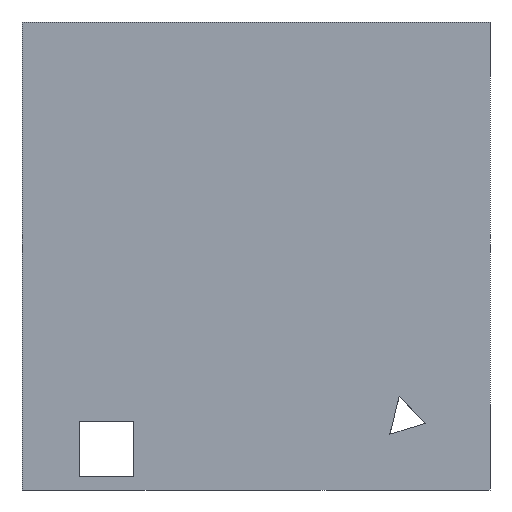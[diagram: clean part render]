
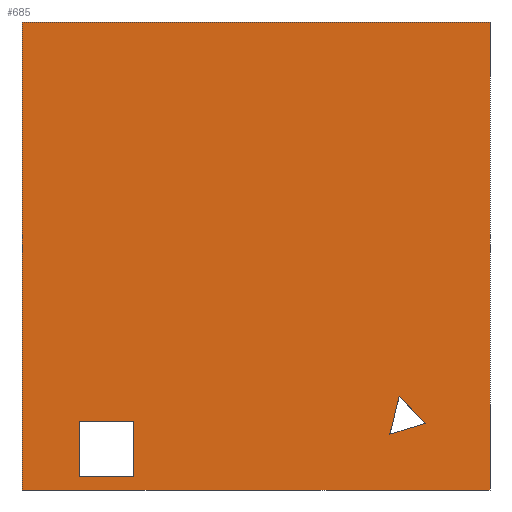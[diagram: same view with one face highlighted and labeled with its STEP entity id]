
A CAD part, front view. The second image highlights one B-rep face of the part: STEP entity #685.
In plain terms, the highlighted planar face has unit normal (0, -1, 0).
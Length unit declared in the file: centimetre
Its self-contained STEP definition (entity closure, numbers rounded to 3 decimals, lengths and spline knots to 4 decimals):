
#15 = EDGE_CURVE ( 'NONE', #908, #1319, #1293, .T. ) ;
#32 = VECTOR ( 'NONE', #79, 100. ) ;
#35 = EDGE_CURVE ( 'NONE', #1319, #750, #1261, .T. ) ;
#43 = DIRECTION ( 'NONE',  ( 0., 0., -1. ) ) ;
#67 = VERTEX_POINT ( 'NONE', #1883 ) ;
#70 = CARTESIAN_POINT ( 'NONE',  ( 805.7783, 0., 199.2642 ) ) ;
#71 = VECTOR ( 'NONE', #113, 100. ) ;
#79 = DIRECTION ( 'NONE',  ( 1., 0., 0. ) ) ;
#94 = CARTESIAN_POINT ( 'NONE',  ( 1000., 0., 1000. ) ) ;
#113 = DIRECTION ( 'NONE',  ( -1., 0., 0. ) ) ;
#198 = CARTESIAN_POINT ( 'NONE',  ( 862.5101, 0., 142.5323 ) ) ;
#213 = EDGE_CURVE ( 'NONE', #1066, #878, #433, .T. ) ;
#234 = PLANE ( 'NONE',  #1748 ) ;
#258 = CARTESIAN_POINT ( 'NONE',  ( 785.726, 0., 119.1059 ) ) ;
#281 = CARTESIAN_POINT ( 'NONE',  ( 123.393, 0., 27.9124 ) ) ;
#286 = VERTEX_POINT ( 'NONE', #198 ) ;
#314 = CARTESIAN_POINT ( 'NONE',  ( 785.726, 0., 119.1059 ) ) ;
#346 = EDGE_LOOP ( 'NONE', ( #1474, #920, #1084, #782 ) ) ;
#352 = LINE ( 'NONE', #966, #788 ) ;
#353 = VECTOR ( 'NONE', #575, 100. ) ;
#361 = FACE_BOUND ( 'NONE', #784, .T. ) ;
#365 = LINE ( 'NONE', #258, #1138 ) ;
#367 = DIRECTION ( 'NONE',  ( 0., 0., 1. ) ) ;
#373 = DIRECTION ( 'NONE',  ( 1., 0., 0. ) ) ;
#381 = CARTESIAN_POINT ( 'NONE',  ( 1000., 0., 1000. ) ) ;
#433 = LINE ( 'NONE', #1317, #1253 ) ;
#435 = EDGE_LOOP ( 'NONE', ( #548, #1420, #1218 ) ) ;
#436 = CARTESIAN_POINT ( 'NONE',  ( 0., 0., 1000. ) ) ;
#481 = CARTESIAN_POINT ( 'NONE',  ( 239.0837, 0., 146.9607 ) ) ;
#493 = ORIENTED_EDGE ( 'NONE', *, *, #1765, .F. ) ;
#535 = FACE_OUTER_BOUND ( 'NONE', #346, .T. ) ;
#548 = ORIENTED_EDGE ( 'NONE', *, *, #1355, .T. ) ;
#552 = CARTESIAN_POINT ( 'NONE',  ( 1000., 0., 0. ) ) ;
#555 = CARTESIAN_POINT ( 'NONE',  ( 123.393, 0., 27.9124 ) ) ;
#575 = DIRECTION ( 'NONE',  ( 1., 0., 0. ) ) ;
#680 = DIRECTION ( 'NONE',  ( -0.956, 0., -0.292 ) ) ;
#685 = ADVANCED_FACE ( 'NONE', ( #361, #1272, #535 ), #234, .F. ) ;
#709 = ORIENTED_EDGE ( 'NONE', *, *, #1857, .F. ) ;
#750 = VERTEX_POINT ( 'NONE', #552 ) ;
#782 = ORIENTED_EDGE ( 'NONE', *, *, #1906, .T. ) ;
#784 = EDGE_LOOP ( 'NONE', ( #709, #1797, #1829, #493 ) ) ;
#788 = VECTOR ( 'NONE', #373, 100. ) ;
#800 = EDGE_CURVE ( 'NONE', #1863, #1066, #835, .T. ) ;
#820 = VECTOR ( 'NONE', #948, 100. ) ;
#835 = LINE ( 'NONE', #1860, #71 ) ;
#837 = LINE ( 'NONE', #1694, #1904 ) ;
#878 = VERTEX_POINT ( 'NONE', #555 ) ;
#897 = CARTESIAN_POINT ( 'NONE',  ( 123.393, 0., 146.9607 ) ) ;
#908 = VERTEX_POINT ( 'NONE', #436 ) ;
#912 = VECTOR ( 'NONE', #43, 100. ) ;
#920 = ORIENTED_EDGE ( 'NONE', *, *, #35, .F. ) ;
#948 = DIRECTION ( 'NONE',  ( 0.243, 0., 0.97 ) ) ;
#955 = CARTESIAN_POINT ( 'NONE',  ( 0., 0., 1000. ) ) ;
#966 = CARTESIAN_POINT ( 'NONE',  ( 0., 0., 0. ) ) ;
#1066 = VERTEX_POINT ( 'NONE', #897 ) ;
#1084 = ORIENTED_EDGE ( 'NONE', *, *, #15, .F. ) ;
#1109 = CARTESIAN_POINT ( 'NONE',  ( 0., 0., 1000. ) ) ;
#1125 = CARTESIAN_POINT ( 'NONE',  ( 0., 0., 1000. ) ) ;
#1138 = VECTOR ( 'NONE', #680, 100. ) ;
#1190 = EDGE_CURVE ( 'NONE', #1537, #67, #1406, .T. ) ;
#1206 = EDGE_CURVE ( 'NONE', #1657, #750, #352, .T. ) ;
#1209 = EDGE_CURVE ( 'NONE', #67, #286, #1689, .T. ) ;
#1218 = ORIENTED_EDGE ( 'NONE', *, *, #1209, .T. ) ;
#1253 = VECTOR ( 'NONE', #1892, 100. ) ;
#1261 = LINE ( 'NONE', #381, #1496 ) ;
#1272 = FACE_BOUND ( 'NONE', #435, .T. ) ;
#1293 = LINE ( 'NONE', #1125, #32 ) ;
#1317 = CARTESIAN_POINT ( 'NONE',  ( 123.393, 0., 27.9124 ) ) ;
#1319 = VERTEX_POINT ( 'NONE', #94 ) ;
#1333 = CARTESIAN_POINT ( 'NONE',  ( 239.0837, 0., 27.9124 ) ) ;
#1355 = EDGE_CURVE ( 'NONE', #286, #1537, #365, .T. ) ;
#1406 = LINE ( 'NONE', #70, #820 ) ;
#1420 = ORIENTED_EDGE ( 'NONE', *, *, #1190, .T. ) ;
#1474 = ORIENTED_EDGE ( 'NONE', *, *, #1206, .T. ) ;
#1496 = VECTOR ( 'NONE', #1697, 100. ) ;
#1533 = VERTEX_POINT ( 'NONE', #1333 ) ;
#1537 = VERTEX_POINT ( 'NONE', #314 ) ;
#1542 = DIRECTION ( 'NONE',  ( 0., 0., 1. ) ) ;
#1544 = CARTESIAN_POINT ( 'NONE',  ( 862.5101, 0., 142.5323 ) ) ;
#1554 = DIRECTION ( 'NONE',  ( 0.707, 0., -0.707 ) ) ;
#1609 = LINE ( 'NONE', #281, #353 ) ;
#1650 = VECTOR ( 'NONE', #1554, 100. ) ;
#1657 = VERTEX_POINT ( 'NONE', #1716 ) ;
#1689 = LINE ( 'NONE', #1544, #1650 ) ;
#1694 = CARTESIAN_POINT ( 'NONE',  ( 239.0837, 0., 27.9124 ) ) ;
#1697 = DIRECTION ( 'NONE',  ( 0., 0., -1. ) ) ;
#1716 = CARTESIAN_POINT ( 'NONE',  ( 0., 0., 0. ) ) ;
#1723 = DIRECTION ( 'NONE',  ( 0., 1., 0. ) ) ;
#1748 = AXIS2_PLACEMENT_3D ( 'NONE', #955, #1723, #1542 ) ;
#1765 = EDGE_CURVE ( 'NONE', #1533, #1863, #837, .T. ) ;
#1797 = ORIENTED_EDGE ( 'NONE', *, *, #213, .F. ) ;
#1810 = LINE ( 'NONE', #1109, #912 ) ;
#1829 = ORIENTED_EDGE ( 'NONE', *, *, #800, .F. ) ;
#1857 = EDGE_CURVE ( 'NONE', #878, #1533, #1609, .T. ) ;
#1860 = CARTESIAN_POINT ( 'NONE',  ( 123.393, 0., 146.9607 ) ) ;
#1863 = VERTEX_POINT ( 'NONE', #481 ) ;
#1883 = CARTESIAN_POINT ( 'NONE',  ( 805.7783, 0., 199.2642 ) ) ;
#1892 = DIRECTION ( 'NONE',  ( 0., 0., -1. ) ) ;
#1904 = VECTOR ( 'NONE', #367, 100. ) ;
#1906 = EDGE_CURVE ( 'NONE', #908, #1657, #1810, .T. ) ;
